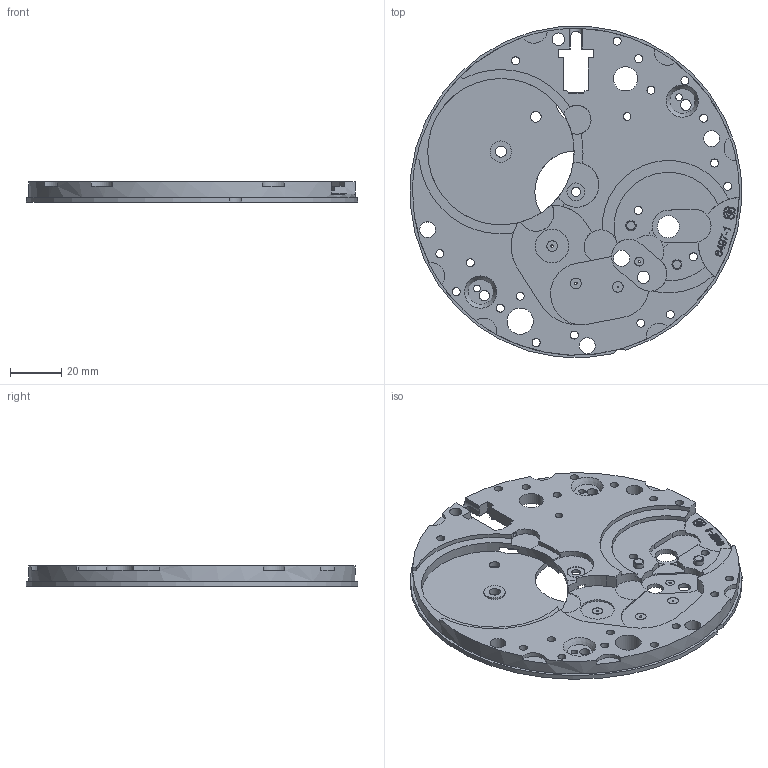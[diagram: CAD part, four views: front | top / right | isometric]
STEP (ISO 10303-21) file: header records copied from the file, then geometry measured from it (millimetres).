
FILE_DESCRIPTION(/* description */ (''),/* implementation_level */ '2;1');
FILE_NAME(/* name */ 'D:\Desktop\LASA\WatchCAdFiles\print5th\face3.stp',/* time_stamp */ '2019-08-08T09:21:13+02:00',/* author */ ('fkhad'),/* organization */ (''),/* preprocessor_version */ 'ST-DEVELOPER v17',/* originating_system */ 'Autodesk Inventor 2018',/* authorisation */ '');
FILE_SCHEMA (('AUTOMOTIVE_DESIGN { 1 0 10303 214 3 1 1 }'));
Length unit declared in the file: millimetre
Products named in the file (1): face3
Bounding box: 129.8 x 129.8 x 7.87 mm (x, y, z)
Volume: 53905.3 mm3; surface area: 34407.5 mm2
Topology: 7 solids, 7 shells, 474 faces, 1372 edges, 960 vertices
Faces by surface type: plane 230, cylinder 170, bspline 57, cone 11, sphere 4, torus 2
Full cylindrical faces by diameter (mm): 0.525 x1, 0.839 x1, 0.944 x2, 1.749 x1, 2.098 x1, 2.613 x1, 2.623 x1, 2.727 x1, 2.967 x1, 3.148 x19, 3.497 x2, 3.903 x1, 4.022 x1, 4.066 x1, 4.197 x7, 4.206 x1, 4.372 x1, 4.547 x14, 4.696 x1, 4.81 x1, 4.896 x2, 5 x1, 5.168 x1, 5.246 x1, 6.183 x1, 6.226 x1, 6.25 x1, 6.378 x1, 6.995 x2, 8.394 x1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
Entity records: 19597 total; most frequent: CARTESIAN_POINT 6056, ORIENTED_EDGE 2744, DIRECTION 2694, EDGE_CURVE 1372, AXIS2_PLACEMENT_3D 1025, VERTEX_POINT 960, LINE 644, VECTOR 644
